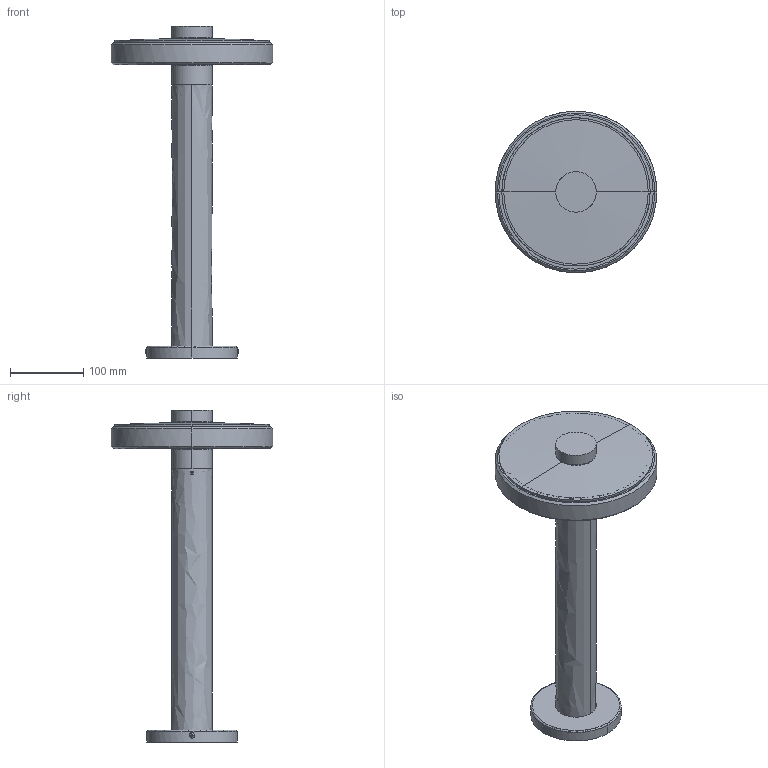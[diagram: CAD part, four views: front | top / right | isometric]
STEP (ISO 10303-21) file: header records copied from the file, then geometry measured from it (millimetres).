
FILE_DESCRIPTION(/* description */ (''),/* implementation_level */ '2;1');
FILE_NAME(/* name */ 'ET048.045',/* time_stamp */ '2024-09-03T12:26:31+02:00',/* author */ (''),/* organization */ (''),/* preprocessor_version */ 'ST-DEVELOPER v16.5',/* originating_system */ '',/* authorisation */ '');
FILE_SCHEMA (('AUTOMOTIVE_DESIGN'));
Length unit declared in the file: millimetre
Products named in the file (1): Document
Bounding box: 220 x 219.81 x 451.83 mm (x, y, z)
Volume: 1415285.7 mm3; surface area: 364400.6 mm2
Topology: 22 solids, 22 shells, 586 faces, 1361 edges, 801 vertices
Faces by surface type: bspline 396, plane 190
Entity records: 26614 total; most frequent: CARTESIAN_POINT 18594, ORIENTED_EDGE 2654, EDGE_CURVE 1327, VERTEX_POINT 801, B_SPLINE_CURVE_WITH_KNOTS 678, EDGE_LOOP 656, ADVANCED_FACE 586, FACE_OUTER_BOUND 586
